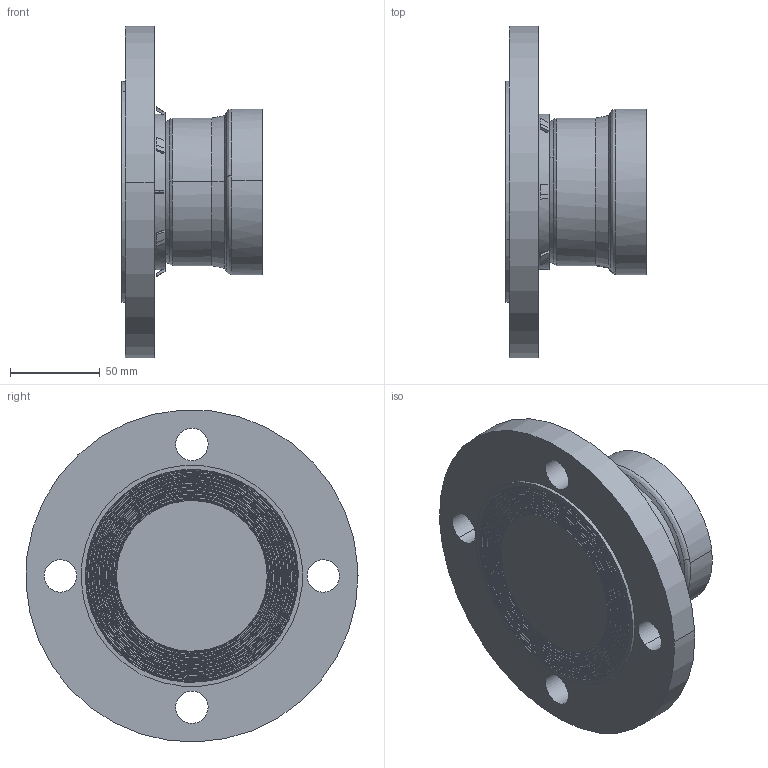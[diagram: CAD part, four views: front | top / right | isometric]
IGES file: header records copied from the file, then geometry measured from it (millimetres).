
Start section: 3D InterOp IGES (Version 25 0 1), Spatial Corp. Copyright (c) 1999-2007.
Global section: file name: pim0004627.igs; native system: Spatial Corp.; preprocessor: 3D InterOp ACIS/IGES; author: CAD-PIM; organization: TransMagic, Inc.; date: 20150619.072542; units: millimetre
Bounding box: 78.26 x 184.45 x 184.41 mm (x, y, z)
Volume: 985636.2 mm3; surface area: 120067.9 mm2
Topology: 1 solids, 1 shells, 856 faces, 2620 edges, 1716 vertices
Faces by surface type: plane 367, cylinder 213, cone 144, bspline 132
